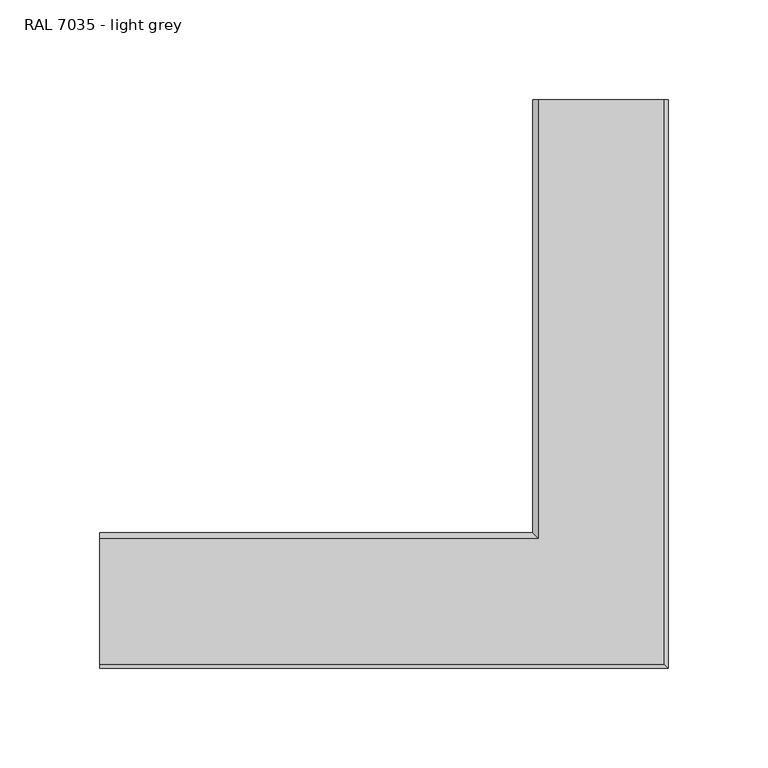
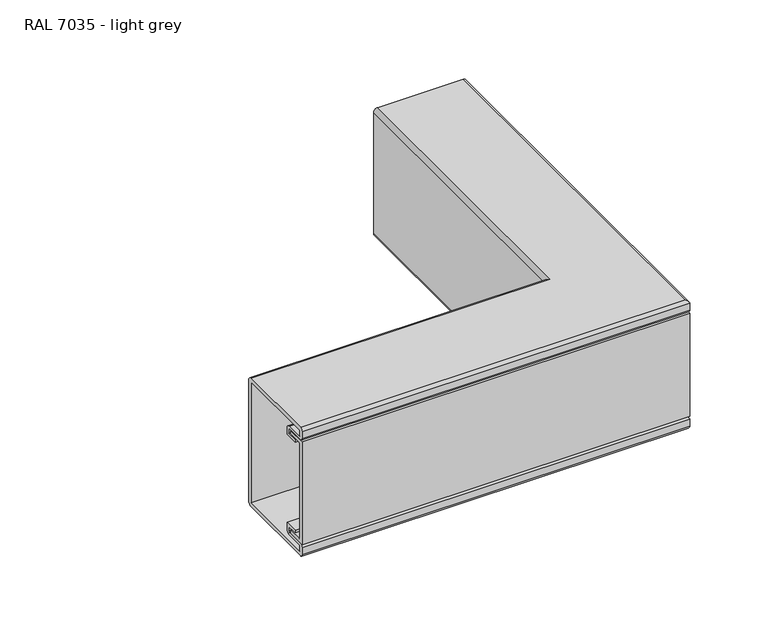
"""IFC4 building model written with IfcOpenShell, lengths in millimetres: cable carrier fitting geometry, Electrical_Installations_Hager_BRP-Horizontal-External-Corner-One-Compartment : RAL 7035 - light grey."""

from ifc_helpers import new_model, si_unit, frame, origin, place, context, project, spatial, polyline, circle_curve, ellipse_curve, source, transform, mapped, element, save
from ifc_brep_helpers import plane_surface, cylinder_surface, revolved_surface, advanced_brep


def ral_7035_light_grey_df20cfa7(model_context):
    return source(origin(), model_context, "Body", "AdvancedBrep", [
        advanced_brep(
        [(32.5, 250.0, 47.0), (-29.5, 250.0, 47.0), (-29.5, 250.0, -47.0), (32.5, 250.0, -47.0), (32.5, 250.0, -42.4755159), (19.5, 250.0, -42.4755159), (16.5, 250.0, -39.4755159), (16.5, 250.0, -34.3585286), (26.5, 250.0, -34.3585286), (26.5, 250.0, -36.4755159), (18.5, 250.0, -36.4755159), (18.5, 250.0, -39.4755159), (19.5, 250.0, -40.4755159), (33.4722563, 250.0, -40.4755159), (35.5, 250.0, -42.5032596), (35.5, 250.0, -48.0), (33.5, 250.0, -50.0), (-29.5, 250.0, -50.0), (-32.5, 250.0, -47.0), (-32.5, 250.0, 47.0), (-29.5, 250.0, 50.0), (33.4796809, 250.0, 50.0), (35.5, 250.0, 47.9796809), (35.5, 250.0, 42.5032596), (33.4722563, 250.0, 40.4755159), (19.5, 250.0, 40.4755159), (18.5, 250.0, 39.4755159), (18.5, 250.0, 36.4755159), (26.5, 250.0, 36.4755159), (26.5, 250.0, 34.3585286), (16.5, 250.0, 34.3585286), (16.5, 250.0, 39.4755159), (19.5, 250.0, 42.4755159), (32.5, 250.0, 42.4755159), (32.5, -32.5, 42.4755159), (32.5, -32.5, 47.0), (19.5, -19.5, 42.4755159), (-250.0, -19.5, 42.4755159), (-250.0, -32.5, 42.4755159), (16.5, -16.5, 39.4755159), (16.5, -16.5, 34.3585286), (18.5, -18.5, 36.4755159), (-250.0, -18.5, 36.4755159), (-250.0, -26.5, 36.4755159), (26.5, -26.5, 36.4755159), (18.5, -18.5, 39.4755159), (19.5, -19.5, 40.4755159), (33.4722563, -33.4722563, 40.4755159), (-250.0, -33.4722563, 40.4755159), (-250.0, -19.5, 40.4755159), (35.5, -35.5, 42.5032596), (35.5, -35.5, 47.9796809), (33.4796809, -33.4796809, 50.0), (-29.5, 29.5, 50.0), (-250.0, 29.5, 50.0), (-250.0, -33.4796809, 50.0), (-32.5, 32.5, 47.0), (-32.5, 32.5, -47.0), (-29.5, 29.5, -50.0), (33.5, -33.5, -50.0), (-250.0, -33.5, -50.0), (-250.0, 29.5, -50.0), (35.5, -35.5, -48.0), (35.5, -35.5, -42.5032596), (32.5, -32.5, -47.0), (32.5, -32.5, -42.4755159), (-29.5, 29.5, -47.0), (-250.0, 29.5, -47.0), (-250.0, -32.5, -47.0), (-29.5, 29.5, 47.0), (-250.0, -32.5, 47.0), (-250.0, 29.5, 47.0), (-250.0, -16.5, 39.4755159), (-250.0, -16.5, 34.3585286), (-250.0, -26.5, 34.3585286), (-250.0, -18.5, 39.4755159), (-250.0, -35.5, 42.5032596), (-250.0, -35.5, 47.9796809), (-250.0, 32.5, 47.0), (-250.0, 32.5, -47.0), (-250.0, -35.5, -48.0), (-250.0, -35.5, -42.5032596), (-250.0, -33.4722563, -40.4755159), (-250.0, -19.5, -40.4755159), (-250.0, -18.5, -39.4755159), (-250.0, -18.5, -36.4755159), (-250.0, -26.5, -36.4755159), (-250.0, -26.5, -34.3585286), (-250.0, -16.5, -34.3585286), (-250.0, -16.5, -39.4755159), (-250.0, -19.5, -42.4755159), (-250.0, -32.5, -42.4755159), (19.5, -19.5, -42.4755159), (16.5, -16.5, -39.4755159), (16.5, -16.5, -34.3585286), (26.5, -26.5, -34.3585286), (26.5, -26.5, -36.4755159), (18.5, -18.5, -36.4755159), (18.5, -18.5, -39.4755159), (19.5, -19.5, -40.4755159), (33.4722563, -33.4722563, -40.4755159), (26.5, -26.5, 34.3585286)],
        [
            (0, 1),
            (1, 2),
            (2, 3),
            (3, 4),
            (4, 5),
            (5, 6, circle_curve(frame((19.5, 250.0, -39.4755159), z_axis=(0.0, 1.0, 0.0), x_axis=(1.0, 0.0, 0.0)), 3.0)),
            (6, 7),
            (7, 8),
            (8, 9),
            (9, 10),
            (10, 11),
            (11, 12, circle_curve(frame((19.5, 250.0, -39.4755159), z_axis=(0.0, -1.0, 0.0), x_axis=(1.0, 0.0, 0.0)), 1.0)),
            (12, 13),
            (13, 14, circle_curve(frame((33.4722563, 250.0, -42.5032596), z_axis=(0.0, 1.0, 0.0), x_axis=(1.0, 0.0, 0.0)), 2.0277437)),
            (14, 15),
            (15, 16, circle_curve(frame((33.5, 250.0, -48.0), z_axis=(0.0, 1.0, 0.0), x_axis=(1.0, 0.0, 0.0)), 2.0)),
            (16, 17),
            (17, 18, circle_curve(frame((-29.5, 250.0, -47.0), z_axis=(0.0, 1.0, 0.0), x_axis=(1.0, 0.0, 0.0)), 3.0)),
            (18, 19),
            (19, 20, circle_curve(frame((-29.5, 250.0, 47.0), z_axis=(0.0, 1.0, 0.0), x_axis=(1.0, 0.0, 0.0)), 3.0)),
            (20, 21),
            (21, 22, circle_curve(frame((33.4796809, 250.0, 47.9796809), z_axis=(0.0, 1.0, 0.0), x_axis=(1.0, 0.0, 0.0)), 2.0203191)),
            (22, 23),
            (23, 24, circle_curve(frame((33.4722563, 250.0, 42.5032596), z_axis=(0.0, 1.0, 0.0), x_axis=(1.0, 0.0, 0.0)), 2.0277437)),
            (24, 25),
            (25, 26, circle_curve(frame((19.5, 250.0, 39.4755159), z_axis=(0.0, -1.0, 0.0), x_axis=(1.0, 0.0, 0.0)), 1.0)),
            (26, 27),
            (27, 28),
            (28, 29),
            (29, 30),
            (30, 31),
            (31, 32, circle_curve(frame((19.5, 250.0, 39.4755159), z_axis=(0.0, 1.0, 0.0), x_axis=(1.0, 0.0, 0.0)), 3.0)),
            (32, 33),
            (33, 0),
            (33, 34),
            (34, 35),
            (35, 0),
            (32, 36),
            (36, 37),
            (37, 38),
            (38, 34),
            (31, 39),
            (39, 36, ellipse_curve(frame((19.5, -19.5, 39.4755159), z_axis=(0.707106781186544, 0.707106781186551, 0.0), x_axis=(-0.707106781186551, 0.707106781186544, 0.0)), 4.2426407, 3.0)),
            (30, 40),
            (40, 39),
            (27, 41),
            (41, 42),
            (42, 43),
            (43, 44),
            (44, 28),
            (26, 45),
            (45, 41),
            (25, 46),
            (46, 45, ellipse_curve(frame((19.5, -19.5, 39.4755159), z_axis=(-0.707106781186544, -0.707106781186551, 0.0), x_axis=(0.707106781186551, -0.707106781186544, 0.0)), 1.4142136, 1.0)),
            (24, 47),
            (47, 48),
            (48, 49),
            (49, 46),
            (23, 50),
            (50, 47, ellipse_curve(frame((33.4722563, -33.4722563, 42.5032596), z_axis=(0.707106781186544, 0.707106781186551, 0.0), x_axis=(-0.707106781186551, 0.707106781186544, 0.0)), 2.8676627, 2.0277437)),
            (22, 51),
            (51, 50),
            (21, 52),
            (52, 51, ellipse_curve(frame((33.4796809, -33.4796809, 47.9796809), z_axis=(0.707106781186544, 0.707106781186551, 0.0), x_axis=(-0.707106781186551, 0.707106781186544, 0.0)), 2.8571627, 2.0203191)),
            (20, 53),
            (53, 54),
            (54, 55),
            (55, 52),
            (19, 56),
            (56, 53, ellipse_curve(frame((-29.5, 29.5, 47.0), z_axis=(0.707106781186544, 0.707106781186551, 0.0), x_axis=(-0.707106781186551, 0.707106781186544, 0.0)), 4.2426407, 3.0)),
            (18, 57),
            (57, 56),
            (17, 58),
            (58, 57, ellipse_curve(frame((-29.5, 29.5, -47.0), z_axis=(0.707106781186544, 0.707106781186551, 0.0), x_axis=(-0.707106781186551, 0.707106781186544, 0.0)), 4.2426407, 3.0)),
            (16, 59),
            (59, 60),
            (60, 61),
            (61, 58),
            (15, 62),
            (62, 59, ellipse_curve(frame((33.5, -33.5, -48.0), z_axis=(0.707106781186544, 0.707106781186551, 0.0), x_axis=(-0.707106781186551, 0.707106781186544, 0.0)), 2.8284271, 2.0)),
            (14, 63),
            (63, 62),
            (3, 64),
            (64, 65),
            (65, 4),
            (2, 66),
            (66, 67),
            (67, 68),
            (68, 64),
            (1, 69),
            (69, 66),
            (35, 70),
            (70, 71),
            (71, 69),
            (70, 38),
            (37, 72, circle_curve(frame((-250.0, -19.5, 39.4755159), z_axis=(-1.0, 0.0, 0.0), x_axis=(0.0, -1.0, 0.0)), 3.0)),
            (72, 73),
            (73, 74),
            (74, 43),
            (42, 75),
            (75, 49, circle_curve(frame((-250.0, -19.5, 39.4755159), z_axis=(1.0, 0.0, 0.0), x_axis=(0.0, -1.0, 0.0)), 1.0)),
            (48, 76, circle_curve(frame((-250.0, -33.4722563, 42.5032596), z_axis=(-1.0, 0.0, 0.0), x_axis=(0.0, -1.0, 0.0)), 2.0277437)),
            (76, 77),
            (77, 55, circle_curve(frame((-250.0, -33.4796809, 47.9796809), z_axis=(-1.0, 0.0, 0.0), x_axis=(0.0, -1.0, 0.0)), 2.0203191)),
            (54, 78, circle_curve(frame((-250.0, 29.5, 47.0), z_axis=(-1.0, 0.0, 0.0), x_axis=(0.0, -1.0, 0.0)), 3.0)),
            (78, 79),
            (79, 61, circle_curve(frame((-250.0, 29.5, -47.0), z_axis=(-1.0, 0.0, 0.0), x_axis=(0.0, -1.0, 0.0)), 3.0)),
            (60, 80, circle_curve(frame((-250.0, -33.5, -48.0), z_axis=(-1.0, 0.0, 0.0), x_axis=(0.0, -1.0, 0.0)), 2.0)),
            (80, 81),
            (81, 82, circle_curve(frame((-250.0, -33.4722563, -42.5032596), z_axis=(-1.0, 0.0, 0.0), x_axis=(0.0, -1.0, 0.0)), 2.0277437)),
            (82, 83),
            (83, 84, circle_curve(frame((-250.0, -19.5, -39.4755159), z_axis=(1.0, 0.0, 0.0), x_axis=(0.0, -1.0, 0.0)), 1.0)),
            (84, 85),
            (85, 86),
            (86, 87),
            (87, 88),
            (88, 89),
            (89, 90, circle_curve(frame((-250.0, -19.5, -39.4755159), z_axis=(-1.0, 0.0, 0.0), x_axis=(0.0, -1.0, 0.0)), 3.0)),
            (90, 91),
            (91, 68),
            (67, 71),
            (39, 72),
            (40, 73),
            (45, 75),
            (50, 76),
            (51, 77),
            (56, 78),
            (57, 79),
            (62, 80),
            (63, 81),
            (91, 65),
            (90, 92),
            (92, 5),
            (92, 93, ellipse_curve(frame((19.5, -19.5, -39.4755159), z_axis=(0.707106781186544, 0.707106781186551, 0.0), x_axis=(-0.707106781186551, 0.707106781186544, 0.0)), 4.2426407, 3.0)),
            (93, 6),
            (93, 94),
            (94, 7),
            (94, 88),
            (87, 95),
            (95, 8),
            (95, 96),
            (96, 9),
            (96, 86),
            (85, 97),
            (97, 10),
            (97, 98),
            (98, 11),
            (98, 99, ellipse_curve(frame((19.5, -19.5, -39.4755159), z_axis=(-0.707106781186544, -0.707106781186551, 0.0), x_axis=(0.707106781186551, -0.707106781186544, 0.0)), 1.4142136, 1.0)),
            (99, 12),
            (99, 83),
            (82, 100),
            (100, 13),
            (100, 63, ellipse_curve(frame((33.4722563, -33.4722563, -42.5032596), z_axis=(0.707106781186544, 0.707106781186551, 0.0), x_axis=(-0.707106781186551, 0.707106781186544, 0.0)), 2.8676627, 2.0277437)),
            (44, 101),
            (101, 29),
            (101, 74),
            (89, 93),
            (84, 98),
        ],
        [
            plane_surface(frame((0.0, 250.0, 0.0), z_axis=(0.0, 1.0, 0.0), x_axis=(0.0, 0.0, 1.0))),
            plane_surface(frame((32.5, 250.0, 42.4755159), z_axis=(-1.0, 0.0, 0.0), x_axis=(0.0, -1.0, 0.0))),
            plane_surface(frame((19.5, 250.0, 42.4755159), z_axis=(0.0, 0.0, 1.0), x_axis=(0.0, -1.0, 0.0))),
            cylinder_surface(frame((19.5, 250.0, 39.4755159), z_axis=(0.0, 1.0, 0.0), x_axis=(1.0, 0.0, 0.0)), 3.0),
            plane_surface(frame((16.5, 250.0, 34.3585286), z_axis=(-1.0, 0.0, 0.0), x_axis=(0.0, -1.0, 0.0))),
            plane_surface(frame((18.5, 250.0, 36.4755159), z_axis=(0.0, 0.0, 1.0), x_axis=(0.0, -1.0, 0.0))),
            plane_surface(frame((18.5, 250.0, 39.4755159), z_axis=(1.0, 0.0, 0.0), x_axis=(0.0, -1.0, 0.0))),
            revolved_surface(polyline([(20.5, -20.500000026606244, 39.4755159), (20.5, 250.0, 39.4755159)]), (19.5, 250.0, 39.4755159), (0.0, -1.0, 0.0)),
            plane_surface(frame((33.4722563, 250.0, 40.4755159), z_axis=(0.0, 0.0, -1.0), x_axis=(0.0, -1.0, 0.0))),
            cylinder_surface(frame((33.4722563, 250.0, 42.5032596), z_axis=(0.0, 1.0, 0.0), x_axis=(1.0, 0.0, 0.0)), 2.0277437),
            plane_surface(frame((35.5, 250.0, 47.9796809), z_axis=(1.0, 0.0, 0.0), x_axis=(0.0, -1.0, 0.0))),
            cylinder_surface(frame((33.4796809, 250.0, 47.9796809), z_axis=(0.0, 1.0, 0.0), x_axis=(1.0, 0.0, 0.0)), 2.0203191),
            plane_surface(frame((-29.5, 250.0, 50.0), z_axis=(0.0, 0.0, 1.0), x_axis=(0.0, -1.0, 0.0))),
            cylinder_surface(frame((-29.5, 250.0, 47.0), z_axis=(0.0, 1.0, 0.0), x_axis=(1.0, 0.0, 0.0)), 3.0),
            plane_surface(frame((-32.5, 250.0, -47.0), z_axis=(-1.0, 0.0, 0.0), x_axis=(0.0, -1.0, 0.0))),
            cylinder_surface(frame((-29.5, 250.0, -47.0), z_axis=(0.0, 1.0, 0.0), x_axis=(1.0, 0.0, 0.0)), 3.0),
            plane_surface(frame((33.5, 250.0, -50.0), z_axis=(0.0, 0.0, -1.0), x_axis=(0.0, -1.0, 0.0))),
            cylinder_surface(frame((33.5, 250.0, -48.0), z_axis=(0.0, 1.0, 0.0), x_axis=(1.0, 0.0, 0.0)), 2.0),
            plane_surface(frame((35.5, 250.0, -42.5032596), z_axis=(1.0, 0.0, 0.0), x_axis=(0.0, -1.0, 0.0))),
            plane_surface(frame((32.5, 250.0, -47.0), z_axis=(-1.0, 0.0, 0.0), x_axis=(0.0, -1.0, 0.0))),
            plane_surface(frame((-29.5, 250.0, -47.0), z_axis=(0.0, 0.0, 1.0), x_axis=(0.0, -1.0, 0.0))),
            plane_surface(frame((-29.5, 250.0, 7.4649365), z_axis=(1.0, 0.0, 0.0), x_axis=(0.0, -1.0, 0.0))),
            plane_surface(frame((32.5, 250.0, 47.0), z_axis=(0.0, 0.0, -1.0), x_axis=(0.0, -1.0, 0.0))),
            plane_surface(frame((-250.0, 0.0, 0.0), z_axis=(-1.0, 0.0, 0.0), x_axis=(0.0, 0.0, 1.0))),
            plane_surface(frame((32.5, -32.5, 42.4755159), z_axis=(0.0, 1.0, 0.0), x_axis=(-1.0, 0.0, 0.0))),
            cylinder_surface(frame((0.0, -19.5, 39.4755159), z_axis=(1.0, 0.0, 0.0), x_axis=(0.0, -1.0, 0.0)), 3.0),
            plane_surface(frame((16.5, -16.5, 34.3585286), z_axis=(0.0, 1.0, 0.0), x_axis=(-1.0, 0.0, 0.0))),
            plane_surface(frame((18.5, -18.5, 39.4755159), z_axis=(0.0, -1.0, 0.0), x_axis=(-1.0, 0.0, 0.0))),
            revolved_surface(polyline([(-250.0, -20.5, 39.4755159), (20.500000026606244, -20.5, 39.4755159)]), (0.0, -19.5, 39.4755159), (-1.0, 0.0, 0.0)),
            cylinder_surface(frame((0.0, -33.4722563, 42.5032596), z_axis=(1.0, 0.0, 0.0), x_axis=(0.0, -1.0, 0.0)), 2.0277437),
            plane_surface(frame((35.5, -35.5, 47.9796809), z_axis=(0.0, -1.0, 0.0), x_axis=(-1.0, 0.0, 0.0))),
            cylinder_surface(frame((0.0, -33.4796809, 47.9796809), z_axis=(1.0, 0.0, 0.0), x_axis=(0.0, -1.0, 0.0)), 2.0203191),
            cylinder_surface(frame((0.0, 29.5, 47.0), z_axis=(1.0, 0.0, 0.0), x_axis=(0.0, -1.0, 0.0)), 3.0),
            plane_surface(frame((-32.5, 32.5, -47.0), z_axis=(0.0, 1.0, 0.0), x_axis=(-1.0, 0.0, 0.0))),
            cylinder_surface(frame((0.0, 29.5, -47.0), z_axis=(1.0, 0.0, 0.0), x_axis=(0.0, -1.0, 0.0)), 3.0),
            cylinder_surface(frame((0.0, -33.5, -48.0), z_axis=(1.0, 0.0, 0.0), x_axis=(0.0, -1.0, 0.0)), 2.0),
            plane_surface(frame((35.5, -35.5, -42.5032596), z_axis=(0.0, -1.0, 0.0), x_axis=(-1.0, 0.0, 0.0))),
            plane_surface(frame((32.5, -32.5, -47.0), z_axis=(0.0, 1.0, 0.0), x_axis=(-1.0, 0.0, 0.0))),
            plane_surface(frame((-29.5, 29.5, 7.4649365), z_axis=(0.0, -1.0, 0.0), x_axis=(-1.0, 0.0, 0.0))),
            plane_surface(frame((32.5, 250.0, -42.4755159), z_axis=(0.0, 0.0, -1.0), x_axis=(0.0, -1.0, 0.0))),
            cylinder_surface(frame((19.5, 250.0, -39.4755159), z_axis=(0.0, 1.0, 0.0), x_axis=(1.0, 0.0, 0.0)), 3.0),
            plane_surface(frame((16.5, 250.0, -39.4755159), z_axis=(-1.0, 0.0, 0.0), x_axis=(0.0, -1.0, 0.0))),
            plane_surface(frame((16.5, 250.0, -34.3585286), z_axis=(0.0, 0.0, 1.0), x_axis=(0.0, -1.0, 0.0))),
            plane_surface(frame((26.5, 250.0, -34.3585286), z_axis=(1.0, 0.0, 0.0), x_axis=(0.0, -1.0, 0.0))),
            plane_surface(frame((26.5, 250.0, -36.4755159), z_axis=(0.0, 0.0, -1.0), x_axis=(0.0, -1.0, 0.0))),
            plane_surface(frame((18.5, 250.0, -36.4755159), z_axis=(1.0, 0.0, 0.0), x_axis=(0.0, -1.0, 0.0))),
            revolved_surface(polyline([(20.5, -20.500000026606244, -39.4755159), (20.5, 250.0, -39.4755159)]), (19.5, 250.0, -39.4755159), (0.0, -1.0, 0.0)),
            plane_surface(frame((19.5, 250.0, -40.4755159), z_axis=(0.0, 0.0, 1.0), x_axis=(0.0, -1.0, 0.0))),
            cylinder_surface(frame((33.4722563, 250.0, -42.5032596), z_axis=(0.0, 1.0, 0.0), x_axis=(1.0, 0.0, 0.0)), 2.0277437),
            plane_surface(frame((26.5, 250.0, 36.4755159), z_axis=(1.0, 0.0, 0.0), x_axis=(0.0, -1.0, 0.0))),
            plane_surface(frame((26.5, 250.0, 34.3585286), z_axis=(0.0, 0.0, -1.0), x_axis=(0.0, -1.0, 0.0))),
            cylinder_surface(frame((0.0, -19.5, -39.4755159), z_axis=(1.0, 0.0, 0.0), x_axis=(0.0, -1.0, 0.0)), 3.0),
            plane_surface(frame((16.5, -16.5, -39.4755159), z_axis=(0.0, 1.0, 0.0), x_axis=(-1.0, 0.0, 0.0))),
            plane_surface(frame((26.5, -26.5, -34.3585286), z_axis=(0.0, -1.0, 0.0), x_axis=(-1.0, 0.0, 0.0))),
            plane_surface(frame((18.5, -18.5, -36.4755159), z_axis=(0.0, -1.0, 0.0), x_axis=(-1.0, 0.0, 0.0))),
            revolved_surface(polyline([(-250.0, -20.5, -39.4755159), (20.500000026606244, -20.5, -39.4755159)]), (0.0, -19.5, -39.4755159), (-1.0, 0.0, 0.0)),
            cylinder_surface(frame((0.0, -33.4722563, -42.5032596), z_axis=(1.0, 0.0, 0.0), x_axis=(0.0, -1.0, 0.0)), 2.0277437),
            plane_surface(frame((26.5, -26.5, 36.4755159), z_axis=(0.0, -1.0, 0.0), x_axis=(-1.0, 0.0, 0.0))),
        ],
        [
            (0, [[1, 2, 3, 4, 5, 6, 7, 8, 9, 10, 11, 12, 13, 14, 15, 16, 17, 18, 19, 20, 21, 22, 23, 24, 25, 26, 27, 28, 29, 30, 31, 32, 33, 34]]),
            (1, [[-34, 35, 36, 37]]),
            (2, [[-33, 38, 39, 40, 41, -35]]),
            (3, [[-32, 42, 43, -38]]),
            (4, [[-31, 44, 45, -42]]),
            (5, [[-28, 46, 47, 48, 49, 50]]),
            (6, [[-27, 51, 52, -46]]),
            (7, [[-26, 53, 54, -51]]),
            (8, [[-25, 55, 56, 57, 58, -53]]),
            (9, [[-24, 59, 60, -55]]),
            (10, [[-23, 61, 62, -59]]),
            (11, [[-22, 63, 64, -61]]),
            (12, [[-21, 65, 66, 67, 68, -63]]),
            (13, [[-20, 69, 70, -65]]),
            (14, [[-19, 71, 72, -69]]),
            (15, [[-18, 73, 74, -71]]),
            (16, [[-17, 75, 76, 77, 78, -73]]),
            (17, [[-16, 79, 80, -75]]),
            (18, [[-15, 81, 82, -79]]),
            (19, [[-4, 83, 84, 85]]),
            (20, [[-3, 86, 87, 88, 89, -83]]),
            (21, [[90, 91, -86, -2]]),
            (22, [[-1, -37, 92, 93, 94, -90]]),
            (23, [[95, -40, 96, 97, 98, 99, -48, 100, 101, -57, 102, 103, 104, -67, 105, 106, 107, -77, 108, 109, 110, 111, 112, 113, 114, 115, 116, 117, 118, 119, 120, -88, 121, -93]]),
            (24, [[-36, -41, -95, -92]]),
            (25, [[-43, 122, -96, -39]]),
            (26, [[-45, 123, -97, -122]]),
            (27, [[-52, 124, -100, -47]]),
            (28, [[-54, -58, -101, -124]]),
            (29, [[-60, 125, -102, -56]]),
            (30, [[-62, 126, -103, -125]]),
            (31, [[-64, -68, -104, -126]]),
            (32, [[-70, 127, -105, -66]]),
            (33, [[-72, 128, -106, -127]]),
            (34, [[-74, -78, -107, -128]]),
            (35, [[-80, 129, -108, -76]]),
            (36, [[-82, 130, -109, -129]]),
            (37, [[-84, -89, -120, 131]]),
            (38, [[-91, -94, -121, -87]]),
            (39, [[-5, -85, -131, -119, 132, 133]]),
            (40, [[-6, -133, 134, 135]]),
            (41, [[-7, -135, 136, 137]]),
            (42, [[-8, -137, 138, -116, 139, 140]]),
            (43, [[-9, -140, 141, 142]]),
            (44, [[-10, -142, 143, -114, 144, 145]]),
            (45, [[-11, -145, 146, 147]]),
            (46, [[-12, -147, 148, 149]]),
            (47, [[-13, -149, 150, -111, 151, 152]]),
            (48, [[-14, -152, 153, -81]]),
            (49, [[-29, -50, 154, 155]]),
            (50, [[-30, -155, 156, -98, -123, -44]]),
            (51, [[-134, -132, -118, 157]]),
            (52, [[-136, -157, -117, -138]]),
            (53, [[-141, -139, -115, -143]]),
            (54, [[-146, -144, -113, 158]]),
            (55, [[-148, -158, -112, -150]]),
            (56, [[-153, -151, -110, -130]]),
            (57, [[-154, -49, -99, -156]]),
        ],
    ),
        advanced_brep(
        [(32.46875, 250.0, -36.858251), (32.46875, 250.0, 36.858251), (31.7770737, 250.0, 37.5499273), (21.06875, 250.0, 37.5499273), (21.06875, 250.0, 40.0137775), (35.46875, 250.0, 40.0137775), (35.46875, 250.0, -40.0137775), (21.06875, 250.0, -40.0137775), (21.06875, 250.0, -37.5499273), (31.7770737, 250.0, -37.5499273), (32.46875, -32.46875, -36.858251), (32.46875, -32.46875, 36.858251), (21.06875, -21.06875, 40.0137775), (-250.0, -21.06875, 40.0137775), (-250.0, -35.46875, 40.0137775), (35.46875, -35.46875, 40.0137775), (35.46875, -35.46875, -40.0137775), (-250.0, -35.46875, -40.0137775), (-250.0, -21.06875, -40.0137775), (21.06875, -21.06875, -40.0137775), (-250.0, -32.46875, -36.858251), (-250.0, -31.7770737, -37.5499273), (-250.0, -21.06875, -37.5499273), (-250.0, -21.06875, 37.5499273), (-250.0, -31.7770737, 37.5499273), (-250.0, -32.46875, 36.858251), (31.7770737, -31.7770737, 37.5499273), (21.06875, -21.06875, 37.5499273), (21.06875, -21.06875, -37.5499273), (31.7770737, -31.7770737, -37.5499273)],
        [
            (0, 1),
            (1, 2, circle_curve(frame((31.7770737, 250.0, 36.858251), z_axis=(0.0, -1.0, 0.0), x_axis=(0.0, 0.0, -1.0)), 0.6916763)),
            (2, 3),
            (3, 4),
            (4, 5),
            (5, 6),
            (6, 7),
            (7, 8),
            (8, 9),
            (9, 0, circle_curve(frame((31.7770737, 250.0, -36.858251), z_axis=(0.0, -1.0, 0.0), x_axis=(0.0, 0.0, -1.0)), 0.6916763)),
            (0, 10),
            (10, 11),
            (11, 1),
            (4, 12),
            (12, 13),
            (13, 14),
            (14, 15),
            (15, 5),
            (15, 16),
            (16, 6),
            (16, 17),
            (17, 18),
            (18, 19),
            (19, 7),
            (20, 21, circle_curve(frame((-250.0, -31.7770737, -36.858251), z_axis=(1.0, 0.0, 0.0), x_axis=(0.0, 0.0, -1.0)), 0.6916763)),
            (21, 22),
            (22, 18),
            (17, 14),
            (13, 23),
            (23, 24),
            (24, 25, circle_curve(frame((-250.0, -31.7770737, 36.858251), z_axis=(1.0, 0.0, 0.0), x_axis=(0.0, 0.0, -1.0)), 0.6916763)),
            (25, 20),
            (10, 20),
            (25, 11),
            (11, 26, ellipse_curve(frame((31.7770737, -31.7770737, 36.858251), z_axis=(-0.7071067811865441, -0.7071067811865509, 0.0), x_axis=(0.7071067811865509, -0.7071067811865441, 0.0)), 0.9781781, 0.6916763)),
            (26, 2),
            (26, 24),
            (23, 27),
            (27, 3),
            (27, 12),
            (19, 28),
            (28, 8),
            (28, 22),
            (21, 29),
            (29, 9),
            (29, 10, ellipse_curve(frame((31.7770737, -31.7770737, -36.858251), z_axis=(-0.7071067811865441, -0.7071067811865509, 0.0), x_axis=(0.7071067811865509, -0.7071067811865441, 0.0)), 0.9781781, 0.6916763)),
        ],
        [
            plane_surface(frame((32.5, 250.0, 42.4755159), z_axis=(0.0, 1.0, 0.0), x_axis=(0.0, 0.0, 1.0))),
            plane_surface(frame((32.46875, 250.0, -36.858251), z_axis=(-1.0, 0.0, 0.0), x_axis=(0.0, -1.0, 0.0))),
            plane_surface(frame((21.06875, 250.0, 40.0137775), z_axis=(0.0, 0.0, 1.0), x_axis=(0.0, -1.0, 0.0))),
            plane_surface(frame((35.46875, 250.0, 40.0137775), z_axis=(1.0, 0.0, 0.0), x_axis=(0.0, -1.0, 0.0))),
            plane_surface(frame((35.46875, 250.0, -40.0137775), z_axis=(0.0, 0.0, -1.0), x_axis=(0.0, -1.0, 0.0))),
            plane_surface(frame((-250.0, -32.5, 42.4755159), z_axis=(-1.0, 0.0, 0.0), x_axis=(0.0, 0.0, 1.0))),
            plane_surface(frame((32.46875, -32.46875, -36.858251), z_axis=(0.0, 1.0, 0.0), x_axis=(-1.0, 0.0, 0.0))),
            plane_surface(frame((35.46875, -35.46875, 40.0137775), z_axis=(0.0, -1.0, 0.0), x_axis=(-1.0, 0.0, 0.0))),
            revolved_surface(polyline([(31.7770737, -32.46875006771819, 36.166574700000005), (31.7770737, 250.0, 36.166574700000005)]), (31.7770737, 250.0, 36.858251), (0.0, -1.0, 0.0)),
            plane_surface(frame((31.7770737, 250.0, 37.5499273), z_axis=(0.0, 0.0, -1.0), x_axis=(0.0, -1.0, 0.0))),
            plane_surface(frame((21.06875, 250.0, 37.5499273), z_axis=(-1.0, 0.0, 0.0), x_axis=(0.0, -1.0, 0.0))),
            plane_surface(frame((21.06875, 250.0, -40.0137775), z_axis=(-1.0, 0.0, 0.0), x_axis=(0.0, -1.0, 0.0))),
            plane_surface(frame((21.06875, 250.0, -37.5499273), z_axis=(0.0, 0.0, 1.0), x_axis=(0.0, -1.0, 0.0))),
            revolved_surface(polyline([(31.7770737, -32.46875006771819, -37.5499273), (31.7770737, 250.0, -37.5499273)]), (31.7770737, 250.0, -36.858251), (0.0, -1.0, 0.0)),
            revolved_surface(polyline([(-250.0, -31.7770737, 36.166574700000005), (32.468750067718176, -31.7770737, 36.166574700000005)]), (32.5, -31.7770737, 36.858251), (-1.0, 0.0, 0.0)),
            plane_surface(frame((21.06875, -21.06875, 37.5499273), z_axis=(0.0, 1.0, 0.0), x_axis=(-1.0, 0.0, 0.0))),
            plane_surface(frame((21.06875, -21.06875, -40.0137775), z_axis=(0.0, 1.0, 0.0), x_axis=(-1.0, 0.0, 0.0))),
            revolved_surface(polyline([(-250.0, -31.7770737, -37.5499273), (32.468750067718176, -31.7770737, -37.5499273)]), (32.5, -31.7770737, -36.858251), (-1.0, 0.0, 0.0)),
        ],
        [
            (0, [[1, 2, 3, 4, 5, 6, 7, 8, 9, 10]]),
            (1, [[-1, 11, 12, 13]]),
            (2, [[-5, 14, 15, 16, 17, 18]]),
            (3, [[-6, -18, 19, 20]]),
            (4, [[-7, -20, 21, 22, 23, 24]]),
            (5, [[25, 26, 27, -22, 28, -16, 29, 30, 31, 32]]),
            (6, [[-12, 33, -32, 34]]),
            (7, [[-19, -17, -28, -21]]),
            (8, [[-2, -13, 35, 36]]),
            (9, [[-3, -36, 37, -30, 38, 39]]),
            (10, [[-4, -39, 40, -14]]),
            (11, [[-8, -24, 41, 42]]),
            (12, [[-9, -42, 43, -26, 44, 45]]),
            (13, [[-10, -45, 46, -11]]),
            (14, [[-35, -34, -31, -37]]),
            (15, [[-40, -38, -29, -15]]),
            (16, [[-41, -23, -27, -43]]),
            (17, [[-46, -44, -25, -33]]),
        ],
    ),
    ])


if __name__ == "__main__":
    model = new_model("IFC4")
    model_context = context("Model", 3, world=origin())
    ifc_project = project(units=[si_unit("LENGTHUNIT", "METRE", prefix="MILLI")], contexts=[model_context])
    site = spatial("IfcSite", under=ifc_project)
    building = spatial("IfcBuilding", under=site)
    placement = place(None, origin())
    ral_7035_light_grey_shape = ral_7035_light_grey_df20cfa7(model_context)
    element("IfcCableCarrierFitting", 1, ObjectType="Electrical_Installations_Hager_BRP-Horizontal-External-Corner-One-Compartment : RAL 7035 - light grey", at=placement, inside=building, context=model_context, shape_type="MappedRepresentation", body=[
        mapped(ral_7035_light_grey_shape, transform((0.0, 0.0, 0.0), x_axis=(1.0, 0.0, 0.0), y_axis=(0.0, 1.0, 0.0), z_axis=(0.0, 0.0, 1.0))),
    ])
    save(model, "model.ifc")
